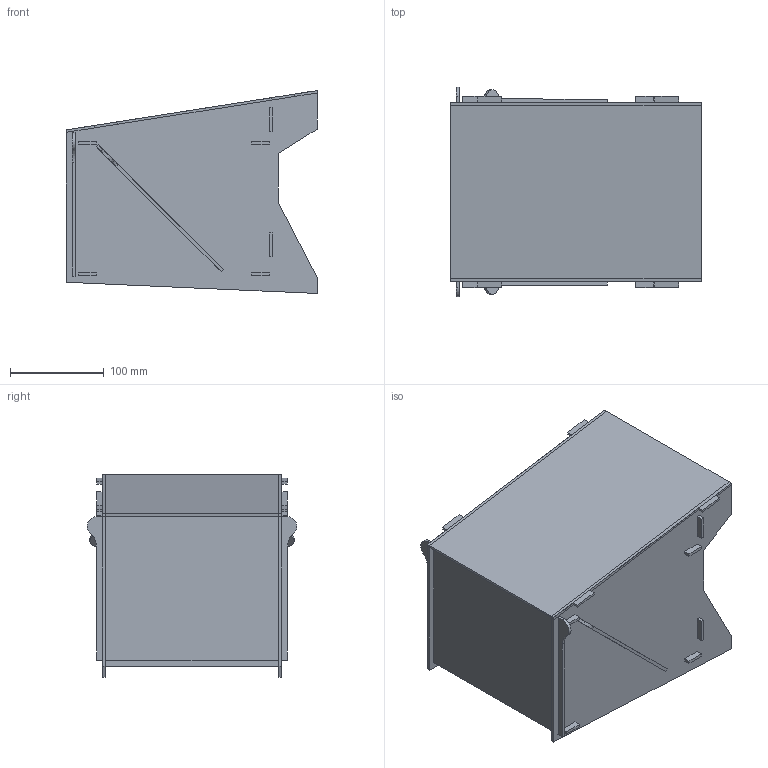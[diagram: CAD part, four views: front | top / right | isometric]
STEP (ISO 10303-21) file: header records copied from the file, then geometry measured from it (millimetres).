
FILE_DESCRIPTION(/* description */ ('','CAx-IF Rec.Pracs.---Representation and Presentation of Product Manufacturing Information (PMI)---4.0---2014-10-13'),/* implementation_level */ '2;1');
FILE_NAME(/* name */ 'MIX Halovision v4.step',/* time_stamp */ '2025-03-19T14:56:39-07:00',/* author */ (''),/* organization */ (''),/* preprocessor_version */ 'ST-DEVELOPER v20',/* originating_system */ 'Autodesk Translation Framework v13.20.0.188',/* authorisation */ '');
FILE_SCHEMA (('AP242_MANAGED_MODEL_BASED_3D_ENGINEERING_MIM_LF { 1 0 10303 442 1 1 4 }'));
Length unit declared in the file: inch
Products named in the file (1): MIX Halovision
Bounding box: 267.09 x 223.1 x 215.9 mm (x, y, z)
Volume: 939548.1 mm3; surface area: 643171.7 mm2
Topology: 8 solids, 8 shells, 230 faces, 642 edges, 428 vertices
Faces by surface type: plane 216, cylinder 10, bspline 4
Entity records: 7607 total; most frequent: CARTESIAN_POINT 1569, ORIENTED_EDGE 1284, DIRECTION 1100, EDGE_CURVE 642, LINE 606, VECTOR 606, VERTEX_POINT 428, EDGE_LOOP 272
